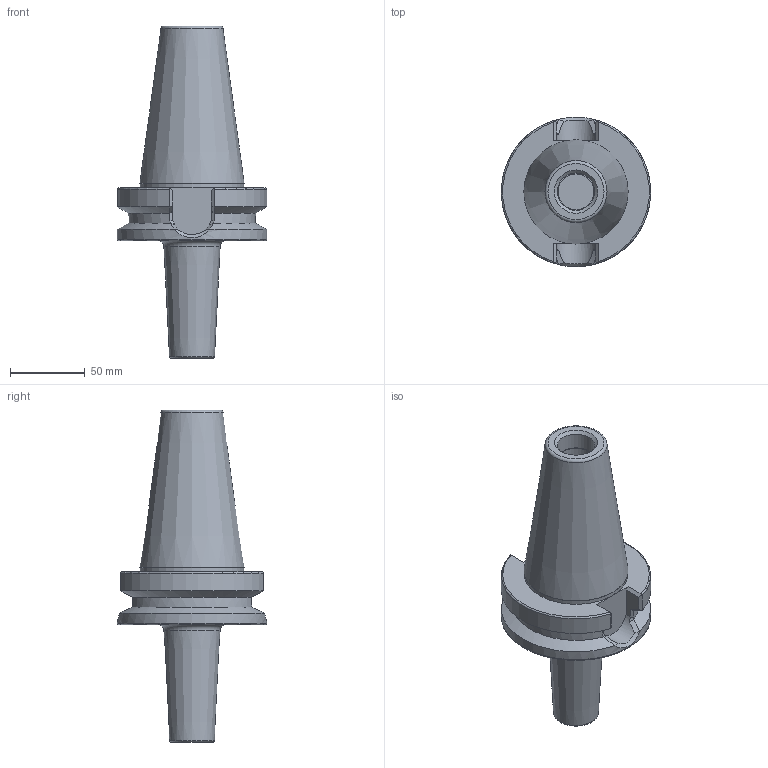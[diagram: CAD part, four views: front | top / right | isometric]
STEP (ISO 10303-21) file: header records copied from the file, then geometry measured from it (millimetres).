
FILE_DESCRIPTION(/* description */ (''),/* implementation_level */ '2;1');
FILE_NAME(/* name */ 'Z:\Проектный отдел\4INVENTOR Модели комплектующих\Комплектующие к ЧПУ\Шпиндели электрические\Цанговый патрон\Высокоскоростной фрезерный патрон BT50-DC12-120L\BT50-DC12-120L.stp',/* time_stamp */ '2024-02-29T15:15:36+03:00',/* author */ ('User'),/* organization */ (''),/* preprocessor_version */ 'ST-DEVELOPER v18',/* originating_system */ 'Autodesk Inventor 2020',/* authorisation */ '');
FILE_SCHEMA (('AUTOMOTIVE_DESIGN { 1 0 10303 214 3 1 1 }'));
Length unit declared in the file: millimetre
Products named in the file (1): BT50-DC12-120L
Bounding box: 100 x 100 x 222 mm (x, y, z)
Volume: 509423.9 mm3; surface area: 66636.5 mm2
Topology: 1 solids, 1 shells, 72 faces, 208 edges, 143 vertices
Faces by surface type: plane 27, bspline 18, cylinder 12, cone 9, torus 6
Full cylindrical faces by diameter (mm): 5.5 x1, 17.5 x1, 24 x1, 25 x1, 69 x1, 100 x1
Entity records: 3066 total; most frequent: CARTESIAN_POINT 1281, ORIENTED_EDGE 416, DIRECTION 287, EDGE_CURVE 208, VERTEX_POINT 143, AXIS2_PLACEMENT_3D 116, B_SPLINE_CURVE_WITH_KNOTS 92, EDGE_LOOP 77
